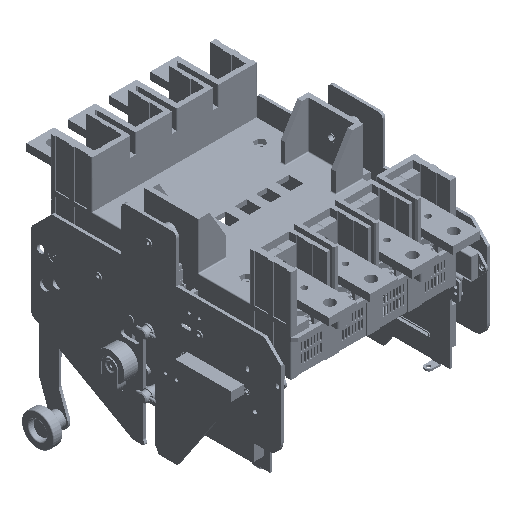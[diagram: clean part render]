
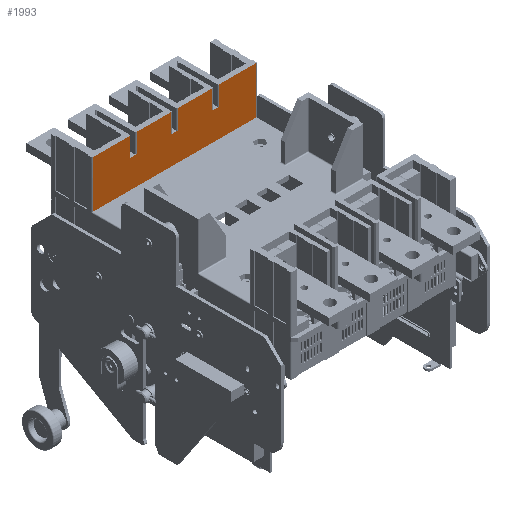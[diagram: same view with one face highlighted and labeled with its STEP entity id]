
A CAD part, isometric view. The second image highlights one B-rep face of the part: STEP entity #1993.
In plain terms, the highlighted planar face has unit normal (0, -1, 0).
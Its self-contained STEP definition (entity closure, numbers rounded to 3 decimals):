
#641 = CARTESIAN_POINT ( 'NONE',  ( -5.599, 171.5, 101.5 ) ) ;
#1993 = ADVANCED_FACE ( 'NONE', ( #40365 ), #34437, .F. ) ;
#3014 = CARTESIAN_POINT ( 'NONE',  ( -5.599, 171.5, 80.5 ) ) ;
#3257 = CARTESIAN_POINT ( 'NONE',  ( 86.4, 171.5, 101.5 ) ) ;
#5790 = LINE ( 'NONE', #90805, #50865 ) ;
#6140 = EDGE_CURVE ( 'NONE', #119826, #114071, #18544, .T. ) ;
#7592 = LINE ( 'NONE', #23442, #10755 ) ;
#9290 = DIRECTION ( 'NONE',  ( 0., 0., -1. ) ) ;
#9973 = CARTESIAN_POINT ( 'NONE',  ( 1., 171.5, 101.5 ) ) ;
#10755 = VECTOR ( 'NONE', #80784, 1000. ) ;
#11145 = LINE ( 'NONE', #102062, #83653 ) ;
#11320 = LINE ( 'NONE', #62691, #97985 ) ;
#11406 = DIRECTION ( 'NONE',  ( 1., 0., 0. ) ) ;
#12125 = VECTOR ( 'NONE', #103868, 1000. ) ;
#12196 = EDGE_CURVE ( 'NONE', #49880, #119826, #36722, .T. ) ;
#12677 = VERTEX_POINT ( 'NONE', #43993 ) ;
#12879 = AXIS2_PLACEMENT_3D ( 'NONE', #103593, #60166, #22548 ) ;
#14495 = EDGE_CURVE ( 'NONE', #12677, #112664, #26760, .T. ) ;
#15814 = CARTESIAN_POINT ( 'NONE',  ( 93.6, 171.5, 101.5 ) ) ;
#15897 = EDGE_CURVE ( 'NONE', #112664, #18148, #7592, .T. ) ;
#16279 = VECTOR ( 'NONE', #103914, 1000. ) ;
#16861 = VECTOR ( 'NONE', #108470, 1000. ) ;
#17694 = VERTEX_POINT ( 'NONE', #106752 ) ;
#18148 = VERTEX_POINT ( 'NONE', #68069 ) ;
#18544 = LINE ( 'NONE', #641, #111395 ) ;
#21969 = EDGE_CURVE ( 'NONE', #42301, #31757, #103133, .T. ) ;
#21999 = CARTESIAN_POINT ( 'NONE',  ( 48.6, 171.5, 101.5 ) ) ;
#22548 = DIRECTION ( 'NONE',  ( 1., 0., 0. ) ) ;
#23418 = LINE ( 'NONE', #112422, #16861 ) ;
#23442 = CARTESIAN_POINT ( 'NONE',  ( 138.6, 171.5, -111.719 ) ) ;
#24589 = VECTOR ( 'NONE', #117714, 1000. ) ;
#26760 = LINE ( 'NONE', #3014, #16279 ) ;
#29220 = ORIENTED_EDGE ( 'NONE', *, *, #85713, .F. ) ;
#30142 = ORIENTED_EDGE ( 'NONE', *, *, #108149, .F. ) ;
#30358 = CARTESIAN_POINT ( 'NONE',  ( 41.4, 171.5, 101.5 ) ) ;
#31757 = VERTEX_POINT ( 'NONE', #102073 ) ;
#33812 = DIRECTION ( 'NONE',  ( 1., 0., 0. ) ) ;
#34437 = PLANE ( 'NONE',  #12879 ) ;
#36168 = CARTESIAN_POINT ( 'NONE',  ( 41.4, 171.5, 80.5 ) ) ;
#36722 = LINE ( 'NONE', #72217, #12125 ) ;
#37036 = ORIENTED_EDGE ( 'NONE', *, *, #62518, .F. ) ;
#37305 = LINE ( 'NONE', #63022, #120960 ) ;
#40365 = FACE_OUTER_BOUND ( 'NONE', #65172, .T. ) ;
#42301 = VERTEX_POINT ( 'NONE', #81163 ) ;
#43993 = CARTESIAN_POINT ( 'NONE',  ( 131.4, 171.5, 80.5 ) ) ;
#44922 = VECTOR ( 'NONE', #49459, 1000. ) ;
#45952 = CARTESIAN_POINT ( 'NONE',  ( -5.599, 171.5, 80.5 ) ) ;
#46391 = VERTEX_POINT ( 'NONE', #30358 ) ;
#48550 = CARTESIAN_POINT ( 'NONE',  ( -5.599, 171.5, 101.5 ) ) ;
#49459 = DIRECTION ( 'NONE',  ( 0., 0., -1. ) ) ;
#49880 = VERTEX_POINT ( 'NONE', #115289 ) ;
#50451 = CARTESIAN_POINT ( 'NONE',  ( 138.6, 171.5, 80.5 ) ) ;
#50865 = VECTOR ( 'NONE', #94701, 1000. ) ;
#53550 = LINE ( 'NONE', #59533, #63942 ) ;
#54731 = ORIENTED_EDGE ( 'NONE', *, *, #114627, .F. ) ;
#54953 = VECTOR ( 'NONE', #11406, 1000. ) ;
#55515 = ORIENTED_EDGE ( 'NONE', *, *, #96996, .F. ) ;
#57627 = ORIENTED_EDGE ( 'NONE', *, *, #6140, .F. ) ;
#58612 = ORIENTED_EDGE ( 'NONE', *, *, #122023, .F. ) ;
#59069 = EDGE_CURVE ( 'NONE', #110896, #77984, #11145, .T. ) ;
#59243 = LINE ( 'NONE', #106700, #44922 ) ;
#59533 = CARTESIAN_POINT ( 'NONE',  ( -5.599, 171.5, 80.5 ) ) ;
#60166 = DIRECTION ( 'NONE',  ( 0., 1., 0. ) ) ;
#62518 = EDGE_CURVE ( 'NONE', #46391, #78618, #80795, .T. ) ;
#62691 = CARTESIAN_POINT ( 'NONE',  ( 131.4, 171.5, -111.719 ) ) ;
#62771 = CARTESIAN_POINT ( 'NONE',  ( -5.599, 171.5, 101.5 ) ) ;
#63022 = CARTESIAN_POINT ( 'NONE',  ( 93.6, 171.5, -111.719 ) ) ;
#63942 = VECTOR ( 'NONE', #33812, 1000. ) ;
#64770 = LINE ( 'NONE', #62771, #54953 ) ;
#65172 = EDGE_LOOP ( 'NONE', ( #58612, #103745, #79587, #105247, #55515, #121978, #102874, #93312, #57627, #120140, #54731, #37036, #29220, #109600, #30142, #97112 ) ) ;
#65860 = CARTESIAN_POINT ( 'NONE',  ( 1., 171.5, 50. ) ) ;
#66415 = VERTEX_POINT ( 'NONE', #95184 ) ;
#68069 = CARTESIAN_POINT ( 'NONE',  ( 138.6, 171.5, 101.5 ) ) ;
#68943 = DIRECTION ( 'NONE',  ( 0., 0., 1. ) ) ;
#72217 = CARTESIAN_POINT ( 'NONE',  ( 48.6, 171.5, -111.719 ) ) ;
#77984 = VERTEX_POINT ( 'NONE', #9973 ) ;
#78618 = VERTEX_POINT ( 'NONE', #36168 ) ;
#79587 = ORIENTED_EDGE ( 'NONE', *, *, #14495, .F. ) ;
#80784 = DIRECTION ( 'NONE',  ( 0., 0., 1. ) ) ;
#80795 = LINE ( 'NONE', #100583, #92208 ) ;
#81163 = CARTESIAN_POINT ( 'NONE',  ( 86.4, 171.5, 80.5 ) ) ;
#81637 = CARTESIAN_POINT ( 'NONE',  ( -5.599, 171.5, 101.5 ) ) ;
#83414 = DIRECTION ( 'NONE',  ( 1., 0., 0. ) ) ;
#83653 = VECTOR ( 'NONE', #84284, 1000. ) ;
#84284 = DIRECTION ( 'NONE',  ( 0., 0., 1. ) ) ;
#85096 = VECTOR ( 'NONE', #105483, 1000. ) ;
#85713 = EDGE_CURVE ( 'NONE', #77984, #46391, #64770, .T. ) ;
#86442 = EDGE_CURVE ( 'NONE', #114071, #42301, #59243, .T. ) ;
#89568 = LINE ( 'NONE', #81637, #85096 ) ;
#90560 = VECTOR ( 'NONE', #83414, 1000. ) ;
#90805 = CARTESIAN_POINT ( 'NONE',  ( 135., 171.5, 50. ) ) ;
#92208 = VECTOR ( 'NONE', #94636, 1000. ) ;
#93312 = ORIENTED_EDGE ( 'NONE', *, *, #86442, .F. ) ;
#94636 = DIRECTION ( 'NONE',  ( 0., 0., -1. ) ) ;
#94701 = DIRECTION ( 'NONE',  ( -1., 0., 0. ) ) ;
#95184 = CARTESIAN_POINT ( 'NONE',  ( 179., 171.5, 50. ) ) ;
#96996 = EDGE_CURVE ( 'NONE', #110717, #17694, #89568, .T. ) ;
#97112 = ORIENTED_EDGE ( 'NONE', *, *, #116698, .F. ) ;
#97985 = VECTOR ( 'NONE', #9290, 1000. ) ;
#100583 = CARTESIAN_POINT ( 'NONE',  ( 41.4, 171.5, -111.719 ) ) ;
#101522 = DIRECTION ( 'NONE',  ( 1., 0., 0. ) ) ;
#102062 = CARTESIAN_POINT ( 'NONE',  ( 1., 171.5, -111.719 ) ) ;
#102073 = CARTESIAN_POINT ( 'NONE',  ( 93.6, 171.5, 80.5 ) ) ;
#102874 = ORIENTED_EDGE ( 'NONE', *, *, #21969, .F. ) ;
#103133 = LINE ( 'NONE', #45952, #90560 ) ;
#103593 = CARTESIAN_POINT ( 'NONE',  ( -5.599, 171.5, -111.719 ) ) ;
#103745 = ORIENTED_EDGE ( 'NONE', *, *, #15897, .F. ) ;
#103868 = DIRECTION ( 'NONE',  ( 0., 0., 1. ) ) ;
#103914 = DIRECTION ( 'NONE',  ( 1., 0., 0. ) ) ;
#105247 = ORIENTED_EDGE ( 'NONE', *, *, #109396, .F. ) ;
#105483 = DIRECTION ( 'NONE',  ( 1., 0., 0. ) ) ;
#106700 = CARTESIAN_POINT ( 'NONE',  ( 86.4, 171.5, -111.719 ) ) ;
#106752 = CARTESIAN_POINT ( 'NONE',  ( 131.4, 171.5, 101.5 ) ) ;
#108149 = EDGE_CURVE ( 'NONE', #66415, #110896, #5790, .T. ) ;
#108470 = DIRECTION ( 'NONE',  ( 0., 0., -1. ) ) ;
#109396 = EDGE_CURVE ( 'NONE', #17694, #12677, #11320, .T. ) ;
#109600 = ORIENTED_EDGE ( 'NONE', *, *, #59069, .F. ) ;
#109765 = LINE ( 'NONE', #48550, #24589 ) ;
#110661 = VERTEX_POINT ( 'NONE', #118645 ) ;
#110717 = VERTEX_POINT ( 'NONE', #15814 ) ;
#110896 = VERTEX_POINT ( 'NONE', #65860 ) ;
#111395 = VECTOR ( 'NONE', #101522, 1000. ) ;
#112422 = CARTESIAN_POINT ( 'NONE',  ( 179., 171.5, -111.719 ) ) ;
#112664 = VERTEX_POINT ( 'NONE', #50451 ) ;
#114071 = VERTEX_POINT ( 'NONE', #3257 ) ;
#114627 = EDGE_CURVE ( 'NONE', #78618, #49880, #53550, .T. ) ;
#115289 = CARTESIAN_POINT ( 'NONE',  ( 48.6, 171.5, 80.5 ) ) ;
#116698 = EDGE_CURVE ( 'NONE', #110661, #66415, #23418, .T. ) ;
#117566 = EDGE_CURVE ( 'NONE', #31757, #110717, #37305, .T. ) ;
#117714 = DIRECTION ( 'NONE',  ( 1., 0., 0. ) ) ;
#118645 = CARTESIAN_POINT ( 'NONE',  ( 179., 171.5, 101.5 ) ) ;
#119826 = VERTEX_POINT ( 'NONE', #21999 ) ;
#120140 = ORIENTED_EDGE ( 'NONE', *, *, #12196, .F. ) ;
#120960 = VECTOR ( 'NONE', #68943, 1000. ) ;
#121978 = ORIENTED_EDGE ( 'NONE', *, *, #117566, .F. ) ;
#122023 = EDGE_CURVE ( 'NONE', #18148, #110661, #109765, .T. ) ;
